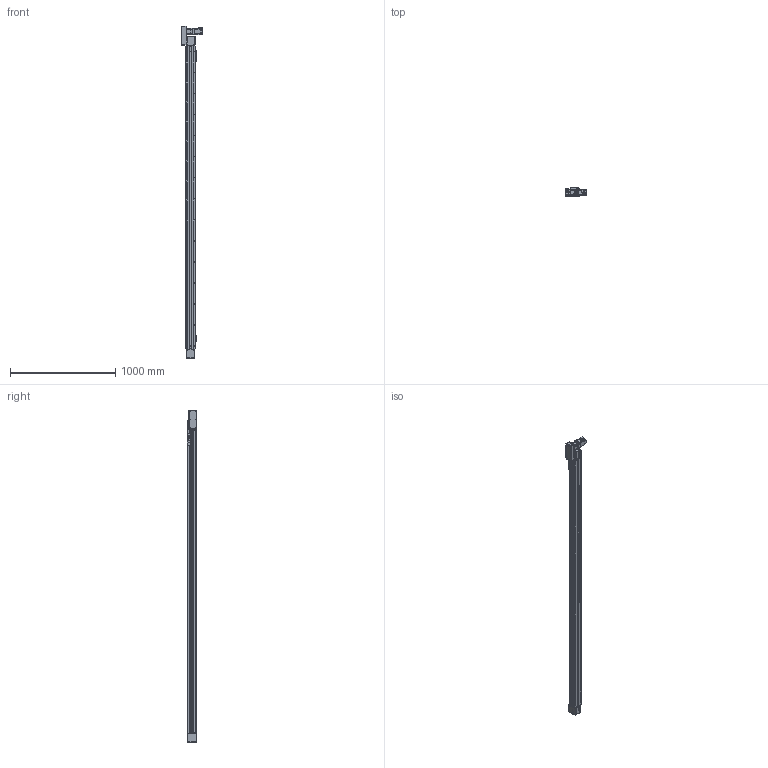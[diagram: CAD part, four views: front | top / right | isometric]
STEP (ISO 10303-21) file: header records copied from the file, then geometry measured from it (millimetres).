
FILE_DESCRIPTION(/* description */ ('MANUFACTURE'),/* implementation_level */ '2;1');
FILE_NAME(/* name */ '\\192.168.0.160\disk1\HAN SHIN Master\B-설계부문\C-표준\B-2024년\BC02-표준도면\+로봇 개선표준도면\홈페이지 표준 도면\홈페이지 최종 작업 폴더\3D\HSB\HSB75\L\HSB75-L2G-N-2700-R.stp',/* time_stamp */ '2025-04-30T13:14:16+09:00',/* author */ ('user'),/* organization */ (''),/* preprocessor_version */ 'ST-DEVELOPER v18.1',/* originating_system */ 'Autodesk Inventor 2022',/* authorisation */ 'LIP');
FILE_SCHEMA (('CONFIG_CONTROL_DESIGN'));
Products named in the file (38): HSB75-L2G-N-0500-R; HSB75 BASE; HSB75 TABLE; HSB75 FRONT HOUSING (Connecting); HSB160 SHAFT-1; C-E6304ZZ; HSB75 FRONT COVER; UPCOVER; HS75 SIDE COVER; HSB75 REAR HOUSING; HSB75 REAR PULLEY; HSB55 REAR SHAFT; HSB55 TENSION PLATE; 6002ZZ; 6002ZZ Outer ring; 6002ZZ Shield1; 6002ZZ Inner ring; 6002ZZ Ball; 6002ZZ Shield2; HS75 SENSOR DOG-1; NIPPLE CAP(신규); hsr_ftht_A-M6F_grease_nipple_joint; HG90STOPPER - 27L; M4-6(렌치볼트); HSB75 END COVER; HSB160 BEARING OVER; HSB55 ACRYL COVER; HSB75 ACRYL COVER-END; SENSOR BRK(EE-SX674A); EE_SX674A; PGX62-H-1_3; hg-kr23_; MOTOR PLATE-200W(MITSUBISHI); HR75-LR-BELT COVER(200W); HC75-LR-MOTOR PLATE(200W)-사출; HR75-BELT COVER-COVER; HR75-BELT COVER-COVER2; HR65-BELT COVER-COVER3
Assembly tree (65 placements, depth 3):
  HSB75-L2G-N-0500-R
    HSB75 BASE
    HSB75 TABLE
    HSB75 FRONT HOUSING (Connecting)
    HSB160 SHAFT-1
    HSB75 FRONT COVER  x2
    C-E6304ZZ  x2
    UPCOVER
    HS75 SIDE COVER  x2
    HSB75 REAR HOUSING
    HSB75 REAR PULLEY
    HSB55 REAR SHAFT
    HSB55 TENSION PLATE  x2
    6002ZZ  x2
      6002ZZ Outer ring
      6002ZZ Shield1
      6002ZZ Inner ring
      6002ZZ Ball
      6002ZZ Shield2
    HS75 SENSOR DOG-1
    SENSOR BRK(EE-SX674A)  x3
    EE_SX674A  x3
    NIPPLE CAP(신규)  x2
    hsr_ftht_A-M6F_grease_nipple_joint  x2
    HG90STOPPER - 27L  x2
    M4-6(렌치볼트)  x2
    HSB75 END COVER
    HSB160 BEARING OVER
    HSB55 ACRYL COVER  x3
    HSB75 ACRYL COVER-END
    PGX62-H-1_3
    hg-kr23_
    MOTOR PLATE-200W(MITSUBISHI)
    HR75-LR-BELT COVER(200W)
    HC75-LR-MOTOR PLATE(200W)-사출
    HR75-BELT COVER-COVER
    HR75-BELT COVER-COVER2
    HR65-BELT COVER-COVER3  x2
Bounding box: 206.6 x 89 x 3156 mm (x, y, z)
Volume: 7916104.2 mm3; surface area: 3089997.1 mm2
Topology: 97 solids, 97 shells, 5500 faces, 15251 edges, 10023 vertices
Faces by surface type: plane 3963, cylinder 1115, cone 316, torus 45, sphere 42, bspline 19
Full cylindrical faces by diameter (mm): 2 x12, 2.013 x4, 2.459 x64, 3 x10, 3.242 x34, 3.3 x5, 3.4 x20, 3.5 x22, 4 x3, 4.134 x67, 4.2 x10, 4.343 x2, 4.5 x30, 4.917 x34, 5 x28, 5.5 x40, 5.6 x10, 5.8 x4, 5.9 x8, 6 x6, 6.5 x4, 7 x3, 8 x9, 8.5 x4, 9 x12, 9.5 x24, 12 x2, 14 x1, 14.2 x1, 14.3 x2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
Entity records: 147705 total; most frequent: CARTESIAN_POINT 29340, ORIENTED_EDGE 24524, DIRECTION 23794, EDGE_CURVE 12262, LINE 9106, VECTOR 9106, VERTEX_POINT 8127, AXIS2_PLACEMENT_3D 7344
